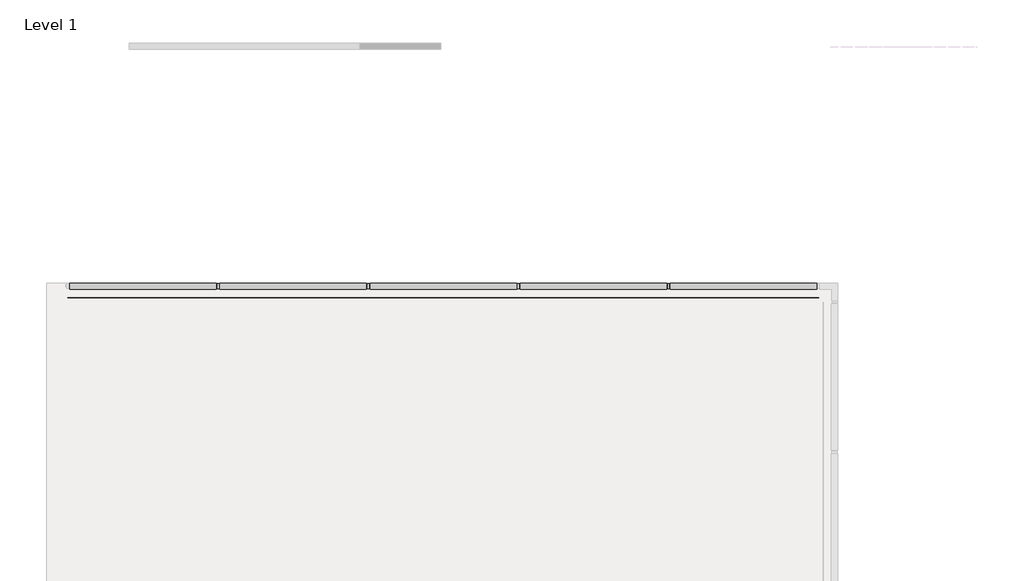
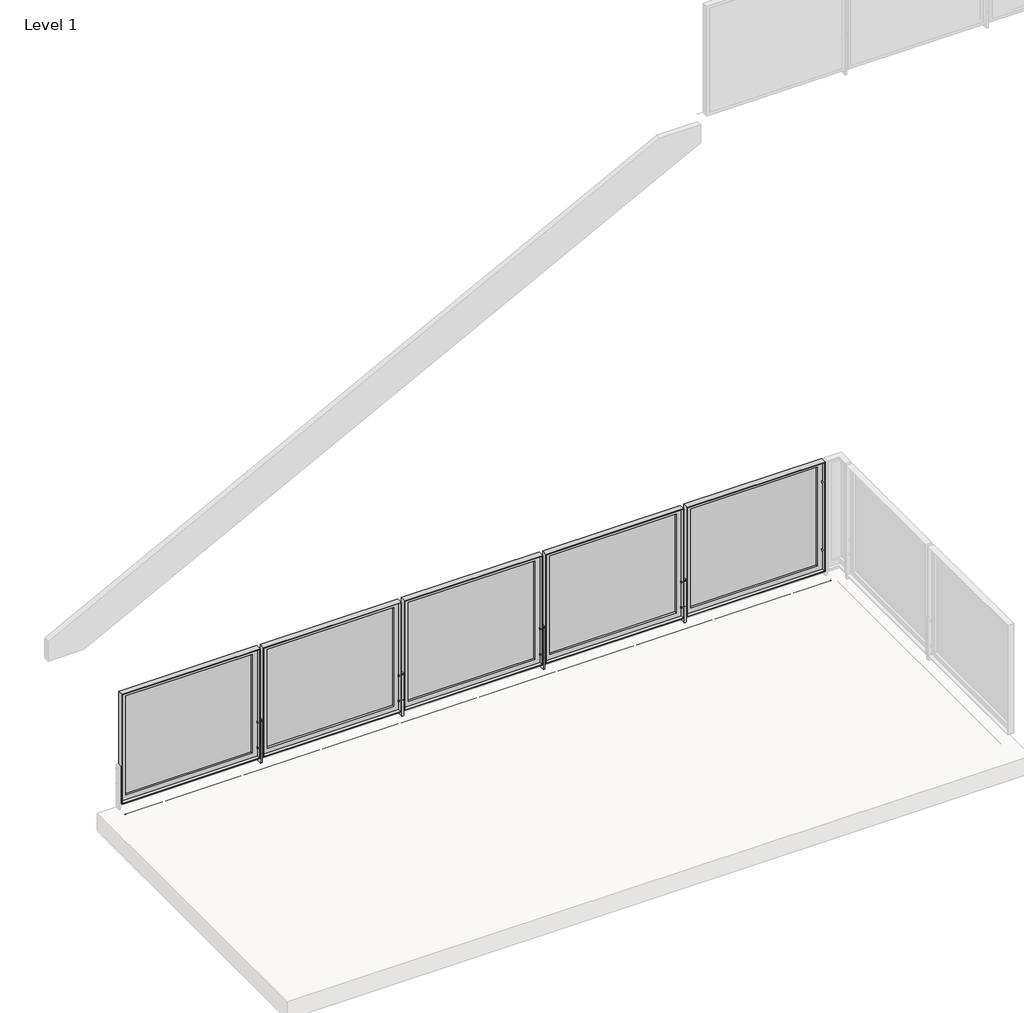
# One storey, part 2 of 37: 1 railing.
"""IFC4 building model written with IfcOpenShell, lengths in millimetres."""

from ifc_helpers import new_model, si_unit, point, frame, frame_2d, origin, origin_with_axes, place, context, project, spatial, polyline, circle_curve, trimmed, segment, composite_curve, outline, extrude, faceted_brep, element, save
from ifc_brep_helpers import plane_surface, cylinder_surface, advanced_brep

model = new_model("IFC4")

# Units and contexts
model_context = context("Model", 3, world=origin())
ifc_project = project(units=[si_unit("LENGTHUNIT", "METRE", prefix="MILLI")], contexts=[model_context])

# Site, building, storey
site = spatial("IfcSite", under=ifc_project)
building = spatial("IfcBuilding", under=site)
storey = spatial("IfcBuildingStorey", under=building, Name="Level 1", Elevation=0.0)

# Railing
placement = place(None, origin())
element("IfcRailing", 1, ObjectType="Metal-Panel-VIVA-FRAME-Slab-Top-Weld-Straight", at=placement, inside=storey, context=model_context, shape_type="SolidModel", body=[
    extrude(outline(composite_curve([segment(trimmed(circle_curve(frame_2d((-33571.9733743, -0.254)), 0.254), [point((-33572.2273743, -0.254))], [point((-33571.7193743, -0.254))], False, "CARTESIAN"), True, "CONTINUOUS"), segment(trimmed(circle_curve(frame_2d((-33571.9733743, -0.254)), 0.254), [point((-33571.7193743, -0.254))], [point((-33572.2273743, -0.254))], False, "CARTESIAN"), True, "CONTINUOUS")], self_intersect=False)), frame((-39464.9234675, 0.0, 0.0), z_axis=(1.0, 0.0, 0.0), x_axis=(0.0, 1.0, 0.0)), (0.0, 0.0, 1.0), 6350.0),
    extrude(outline(composite_curve([segment(trimmed(circle_curve(frame_2d((-33571.9733743, -0.254)), 0.254), [point((-33572.2273743, -0.254))], [point((-33571.7193743, -0.254))], False, "CARTESIAN"), True, "CONTINUOUS"), segment(trimmed(circle_curve(frame_2d((-33571.9733743, -0.254)), 0.254), [point((-33571.7193743, -0.254))], [point((-33572.2273743, -0.254))], False, "CARTESIAN"), True, "CONTINUOUS")], self_intersect=False)), frame((-39464.9234675, 0.0, 0.0), z_axis=(1.0, 0.0, 0.0), x_axis=(0.0, 1.0, 0.0)), (0.0, 0.0, 1.0), 6350.0),
    extrude(outline(polyline([(-34344.0970106, -33449.1629743), (-33155.7499245, -33449.1629743), (-33155.7499245, -33452.1629743), (-34344.0970106, -33452.1629743), (-34344.0970106, -33449.1629743)])), frame((0.0, 0.0, 76.1959569), z_axis=(0.0, 0.0, 1.0), x_axis=(1.0, 0.0, 0.0)), (0.0, 0.0, 1.0), 990.5826861),
    faceted_brep([(-34369.4970106, -33449.1629743, 1092.1786431), (-33130.3499245, -33449.1629743, 1092.1786431), (-33130.3499245, -33449.1629743, 50.7959569), (-34369.4970106, -33449.1629743, 50.7959569), (-34344.0970106, -33449.1629743, 1066.7786431), (-34344.0970106, -33449.1629743, 76.1959569), (-33155.7499245, -33449.1629743, 76.1959569), (-33155.7499245, -33449.1629743, 1066.7786431), (-34344.0970106, -33452.1629743, 76.1959569), (-33155.7499245, -33452.1629743, 76.1959569), (-33155.7499245, -33452.1629743, 1066.7786431), (-34344.0970106, -33452.1629743, 1066.7786431), (-34363.5026106, -33502.9629743, 56.7903569), (-33136.3443245, -33502.9629743, 56.7903569), (-33136.3443245, -33472.1527743, 56.7903569), (-34363.5026106, -33472.1527743, 56.7903569), (-33136.3443245, -33502.9629743, 1086.1842431), (-33136.3443245, -33472.1527743, 1086.1842431), (-34363.5026106, -33472.1527743, 1086.1842431), (-34363.5026106, -33502.9629743, 1086.1842431), (-33130.3499245, -33502.9629743, 50.7959569), (-33130.3499245, -33502.9629743, 1092.1786431), (-34369.4970106, -33502.9629743, 1092.1786431), (-34369.4970106, -33502.9629743, 50.7959569), (-34318.6970106, -33452.1629743, 1041.3786431), (-34318.6970106, -33452.1629743, 101.5959569), (-33181.1499245, -33452.1629743, 101.5959569), (-33181.1499245, -33452.1629743, 1041.3786431), (-33181.1499245, -33472.1527743, 101.5959569), (-34318.6970106, -33472.1527743, 101.5959569), (-34318.6970106, -33472.1527743, 1041.3786431), (-33181.1499245, -33472.1527743, 1041.3786431)], [[[0, 1, 2, 3], [4, 5, 6, 7]], [[5, 8, 9, 6]], [[6, 9, 10, 7]], [[7, 10, 11, 4]], [[4, 11, 8, 5]], [[12, 13, 14, 15]], [[13, 16, 17, 14]], [[15, 18, 19, 12]], [[20, 21, 22, 23], [12, 19, 16, 13]], [[23, 22, 0, 3]], [[23, 3, 2, 20]], [[2, 1, 21, 20]], [[22, 21, 1, 0]], [[11, 10, 9, 8], [24, 25, 26, 27]], [[14, 17, 18, 15], [28, 29, 30, 31]], [[18, 17, 16, 19]], [[27, 31, 30, 24]], [[26, 28, 31, 27]], [[25, 29, 28, 26]], [[24, 30, 29, 25]]]),
    advanced_brep(
    [(-34411.1108675, -33476.0629743, 130.1496), (-34411.1108675, -33476.0629743, 139.7), (-34411.1108675, -33476.0629743, 149.2504), (-34406.3356675, -33476.0629743, 130.1496), (-34406.3356675, -33476.0629743, 149.2504), (-34406.3356675, -33476.0629743, 134.9248), (-34406.3356675, -33476.0629743, 144.4752), (-34363.5112675, -33476.0629743, 134.9248), (-34363.5112675, -33476.0629743, 144.4752), (-34363.5112675, -33476.0629743, 130.1496), (-34363.5112675, -33476.0629743, 149.2504), (-34358.7360675, -33476.0629743, 130.1496), (-34358.7360675, -33476.0629743, 149.2504), (-34358.7360675, -33476.0629743, 139.7)],
    [
        (0, 1),
        (1, 2),
        (2, 0, circle_curve(frame((-34411.1108675, -33476.0629743, 139.7), z_axis=(-1.0, 0.0, 0.0), x_axis=(0.0, 0.0, 1.0)), 9.5504)),
        (0, 2, circle_curve(frame((-34411.1108675, -33476.0629743, 139.7), z_axis=(-1.0, 0.0, 0.0), x_axis=(0.0, 0.0, 1.0)), 9.5504)),
        (3, 0),
        (2, 4),
        (4, 3, circle_curve(frame((-34406.3356675, -33476.0629743, 139.7), z_axis=(-1.0, 0.0, 0.0), x_axis=(0.0, 0.0, 1.0)), 9.5504)),
        (3, 4, circle_curve(frame((-34406.3356675, -33476.0629743, 139.7), z_axis=(-1.0, 0.0, 0.0), x_axis=(0.0, 0.0, 1.0)), 9.5504)),
        (5, 3),
        (4, 6),
        (6, 5, circle_curve(frame((-34406.3356675, -33476.0629743, 139.7), z_axis=(-1.0, 0.0, 0.0), x_axis=(0.0, 0.0, 1.0)), 4.7752)),
        (5, 6, circle_curve(frame((-34406.3356675, -33476.0629743, 139.7), z_axis=(-1.0, 0.0, 0.0), x_axis=(0.0, 0.0, 1.0)), 4.7752)),
        (7, 5),
        (6, 8),
        (8, 7, circle_curve(frame((-34363.5112675, -33476.0629743, 139.7), z_axis=(-1.0, 0.0, 0.0), x_axis=(0.0, 0.0, 1.0)), 4.7752)),
        (7, 8, circle_curve(frame((-34363.5112675, -33476.0629743, 139.7), z_axis=(-1.0, 0.0, 0.0), x_axis=(0.0, 0.0, 1.0)), 4.7752)),
        (9, 7),
        (8, 10),
        (10, 9, circle_curve(frame((-34363.5112675, -33476.0629743, 139.7), z_axis=(-1.0, 0.0, 0.0), x_axis=(0.0, 0.0, 1.0)), 9.5504)),
        (9, 10, circle_curve(frame((-34363.5112675, -33476.0629743, 139.7), z_axis=(-1.0, 0.0, 0.0), x_axis=(0.0, 0.0, 1.0)), 9.5504)),
        (11, 9),
        (10, 12),
        (12, 11, circle_curve(frame((-34358.7360675, -33476.0629743, 139.7), z_axis=(-1.0, 0.0, 0.0), x_axis=(0.0, 0.0, 1.0)), 9.5504)),
        (11, 12, circle_curve(frame((-34358.7360675, -33476.0629743, 139.7), z_axis=(-1.0, 0.0, 0.0), x_axis=(0.0, 0.0, 1.0)), 9.5504)),
        (13, 11),
        (12, 13),
    ],
    [
        plane_surface(frame((-34411.1108675, -33476.0629743, 139.7), z_axis=(-1.0, 0.0, 0.0), x_axis=(0.0, 0.0, 1.0))),
        cylinder_surface(frame((-37802.6912247, -33476.0629743, 139.7), z_axis=(1.0, 0.0, 0.0), x_axis=(0.0, 0.0, 1.0)), 9.5504),
        plane_surface(frame((-34406.3356675, -33476.0629743, 139.7), z_axis=(1.0, 0.0, 0.0), x_axis=(0.0, 0.0, 1.0))),
        cylinder_surface(frame((-37802.6912247, -33476.0629743, 139.7), z_axis=(1.0, 0.0, 0.0), x_axis=(0.0, 0.0, 1.0)), 4.7752),
        plane_surface(frame((-34363.5112675, -33476.0629743, 139.7), z_axis=(-1.0, 0.0, 0.0), x_axis=(0.0, 0.0, 1.0))),
        plane_surface(frame((-34358.7360675, -33476.0629743, 139.7), z_axis=(1.0, 0.0, 0.0), x_axis=(0.0, 0.0, 1.0))),
    ],
    [
        (0, [[1, 2, 3]]),
        (0, [[-2, -1, 4]]),
        (1, [[5, -3, 6, 7]]),
        (1, [[-6, -4, -5, 8]]),
        (2, [[9, -7, 10, 11]]),
        (2, [[-10, -8, -9, 12]]),
        (3, [[13, -11, 14, 15]]),
        (3, [[-14, -12, -13, 16]]),
        (4, [[17, -15, 18, 19]]),
        (4, [[-18, -16, -17, 20]]),
        (1, [[21, -19, 22, 23]]),
        (1, [[-22, -20, -21, 24]]),
        (5, [[25, -23, 26]]),
        (5, [[-26, -24, -25]]),
    ],
),
    advanced_brep(
    [(-34411.1108675, -33476.0629743, 371.4496), (-34411.1108675, -33476.0629743, 381.0), (-34411.1108675, -33476.0629743, 390.5504), (-34406.3356675, -33476.0629743, 371.4496), (-34406.3356675, -33476.0629743, 390.5504), (-34406.3356675, -33476.0629743, 376.2248), (-34406.3356675, -33476.0629743, 385.7752), (-34363.5112675, -33476.0629743, 376.2248), (-34363.5112675, -33476.0629743, 385.7752), (-34363.5112675, -33476.0629743, 371.4496), (-34363.5112675, -33476.0629743, 390.5504), (-34358.7360675, -33476.0629743, 371.4496), (-34358.7360675, -33476.0629743, 390.5504), (-34358.7360675, -33476.0629743, 381.0)],
    [
        (0, 1),
        (1, 2),
        (2, 0, circle_curve(frame((-34411.1108675, -33476.0629743, 381.0), z_axis=(-1.0, 0.0, 0.0), x_axis=(0.0, 0.0, 1.0)), 9.5504)),
        (0, 2, circle_curve(frame((-34411.1108675, -33476.0629743, 381.0), z_axis=(-1.0, 0.0, 0.0), x_axis=(0.0, 0.0, 1.0)), 9.5504)),
        (3, 0),
        (2, 4),
        (4, 3, circle_curve(frame((-34406.3356675, -33476.0629743, 381.0), z_axis=(-1.0, 0.0, 0.0), x_axis=(0.0, 0.0, 1.0)), 9.5504)),
        (3, 4, circle_curve(frame((-34406.3356675, -33476.0629743, 381.0), z_axis=(-1.0, 0.0, 0.0), x_axis=(0.0, 0.0, 1.0)), 9.5504)),
        (5, 3),
        (4, 6),
        (6, 5, circle_curve(frame((-34406.3356675, -33476.0629743, 381.0), z_axis=(-1.0, 0.0, 0.0), x_axis=(0.0, 0.0, 1.0)), 4.7752)),
        (5, 6, circle_curve(frame((-34406.3356675, -33476.0629743, 381.0), z_axis=(-1.0, 0.0, 0.0), x_axis=(0.0, 0.0, 1.0)), 4.7752)),
        (7, 5),
        (6, 8),
        (8, 7, circle_curve(frame((-34363.5112675, -33476.0629743, 381.0), z_axis=(-1.0, 0.0, 0.0), x_axis=(0.0, 0.0, 1.0)), 4.7752)),
        (7, 8, circle_curve(frame((-34363.5112675, -33476.0629743, 381.0), z_axis=(-1.0, 0.0, 0.0), x_axis=(0.0, 0.0, 1.0)), 4.7752)),
        (9, 7),
        (8, 10),
        (10, 9, circle_curve(frame((-34363.5112675, -33476.0629743, 381.0), z_axis=(-1.0, 0.0, 0.0), x_axis=(0.0, 0.0, 1.0)), 9.5504)),
        (9, 10, circle_curve(frame((-34363.5112675, -33476.0629743, 381.0), z_axis=(-1.0, 0.0, 0.0), x_axis=(0.0, 0.0, 1.0)), 9.5504)),
        (11, 9),
        (10, 12),
        (12, 11, circle_curve(frame((-34358.7360675, -33476.0629743, 381.0), z_axis=(-1.0, 0.0, 0.0), x_axis=(0.0, 0.0, 1.0)), 9.5504)),
        (11, 12, circle_curve(frame((-34358.7360675, -33476.0629743, 381.0), z_axis=(-1.0, 0.0, 0.0), x_axis=(0.0, 0.0, 1.0)), 9.5504)),
        (13, 11),
        (12, 13),
    ],
    [
        plane_surface(frame((-34411.1108675, -33476.0629743, 381.0), z_axis=(-1.0, 0.0, 0.0), x_axis=(0.0, 0.0, 1.0))),
        cylinder_surface(frame((-37802.6912247, -33476.0629743, 381.0), z_axis=(1.0, 0.0, 0.0), x_axis=(0.0, 0.0, 1.0)), 9.5504),
        plane_surface(frame((-34406.3356675, -33476.0629743, 381.0), z_axis=(1.0, 0.0, 0.0), x_axis=(0.0, 0.0, 1.0))),
        cylinder_surface(frame((-37802.6912247, -33476.0629743, 381.0), z_axis=(1.0, 0.0, 0.0), x_axis=(0.0, 0.0, 1.0)), 4.7752),
        plane_surface(frame((-34363.5112675, -33476.0629743, 381.0), z_axis=(-1.0, 0.0, 0.0), x_axis=(0.0, 0.0, 1.0))),
        plane_surface(frame((-34358.7360675, -33476.0629743, 381.0), z_axis=(1.0, 0.0, 0.0), x_axis=(0.0, 0.0, 1.0))),
    ],
    [
        (0, [[1, 2, 3]]),
        (0, [[-2, -1, 4]]),
        (1, [[5, -3, 6, 7]]),
        (1, [[-6, -4, -5, 8]]),
        (2, [[9, -7, 10, 11]]),
        (2, [[-10, -8, -9, 12]]),
        (3, [[13, -11, 14, 15]]),
        (3, [[-14, -12, -13, 16]]),
        (4, [[17, -15, 18, 19]]),
        (4, [[-18, -16, -17, 20]]),
        (1, [[21, -19, 22, 23]]),
        (1, [[-22, -20, -21, 24]]),
        (5, [[25, -23, 26]]),
        (5, [[-26, -24, -25]]),
    ],
),
    extrude(outline(polyline([(-34392.8630592, -33498.2879743), (-34392.8630592, -33453.8379743), (-34376.9838759, -33453.8379743), (-34376.9838759, -33498.2879743), (-34392.8630592, -33498.2879743)])), origin_with_axes(), (0.0, 0.0, 1.0), 406.4),
    extrude(outline(polyline([(-35614.0970106, -33449.1629743), (-34425.7499245, -33449.1629743), (-34425.7499245, -33452.1629743), (-35614.0970106, -33452.1629743), (-35614.0970106, -33449.1629743)])), frame((0.0, 0.0, 76.1959569), z_axis=(0.0, 0.0, 1.0), x_axis=(1.0, 0.0, 0.0)), (0.0, 0.0, 1.0), 990.5826861),
    faceted_brep([(-35639.4970106, -33449.1629743, 1092.1786431), (-34400.3499245, -33449.1629743, 1092.1786431), (-34400.3499245, -33449.1629743, 50.7959569), (-35639.4970106, -33449.1629743, 50.7959569), (-35614.0970106, -33449.1629743, 1066.7786431), (-35614.0970106, -33449.1629743, 76.1959569), (-34425.7499245, -33449.1629743, 76.1959569), (-34425.7499245, -33449.1629743, 1066.7786431), (-35614.0970106, -33452.1629743, 76.1959569), (-34425.7499245, -33452.1629743, 76.1959569), (-34425.7499245, -33452.1629743, 1066.7786431), (-35614.0970106, -33452.1629743, 1066.7786431), (-35633.5026106, -33502.9629743, 56.7903569), (-34406.3443245, -33502.9629743, 56.7903569), (-34406.3443245, -33472.1527743, 56.7903569), (-35633.5026106, -33472.1527743, 56.7903569), (-34406.3443245, -33502.9629743, 1086.1842431), (-34406.3443245, -33472.1527743, 1086.1842431), (-35633.5026106, -33472.1527743, 1086.1842431), (-35633.5026106, -33502.9629743, 1086.1842431), (-34400.3499245, -33502.9629743, 50.7959569), (-34400.3499245, -33502.9629743, 1092.1786431), (-35639.4970106, -33502.9629743, 1092.1786431), (-35639.4970106, -33502.9629743, 50.7959569), (-35588.6970106, -33452.1629743, 1041.3786431), (-35588.6970106, -33452.1629743, 101.5959569), (-34451.1499245, -33452.1629743, 101.5959569), (-34451.1499245, -33452.1629743, 1041.3786431), (-34451.1499245, -33472.1527743, 101.5959569), (-35588.6970106, -33472.1527743, 101.5959569), (-35588.6970106, -33472.1527743, 1041.3786431), (-34451.1499245, -33472.1527743, 1041.3786431)], [[[0, 1, 2, 3], [4, 5, 6, 7]], [[5, 8, 9, 6]], [[6, 9, 10, 7]], [[7, 10, 11, 4]], [[4, 11, 8, 5]], [[12, 13, 14, 15]], [[13, 16, 17, 14]], [[15, 18, 19, 12]], [[20, 21, 22, 23], [12, 19, 16, 13]], [[23, 22, 0, 3]], [[23, 3, 2, 20]], [[2, 1, 21, 20]], [[22, 21, 1, 0]], [[11, 10, 9, 8], [24, 25, 26, 27]], [[14, 17, 18, 15], [28, 29, 30, 31]], [[18, 17, 16, 19]], [[27, 31, 30, 24]], [[26, 28, 31, 27]], [[25, 29, 28, 26]], [[24, 30, 29, 25]]]),
    advanced_brep(
    [(-35681.1108675, -33476.0629743, 130.1496), (-35681.1108675, -33476.0629743, 139.7), (-35681.1108675, -33476.0629743, 149.2504), (-35676.3356675, -33476.0629743, 130.1496), (-35676.3356675, -33476.0629743, 149.2504), (-35676.3356675, -33476.0629743, 134.9248), (-35676.3356675, -33476.0629743, 144.4752), (-35633.5112675, -33476.0629743, 134.9248), (-35633.5112675, -33476.0629743, 144.4752), (-35633.5112675, -33476.0629743, 130.1496), (-35633.5112675, -33476.0629743, 149.2504), (-35628.7360675, -33476.0629743, 130.1496), (-35628.7360675, -33476.0629743, 149.2504), (-35628.7360675, -33476.0629743, 139.7)],
    [
        (0, 1),
        (1, 2),
        (2, 0, circle_curve(frame((-35681.1108675, -33476.0629743, 139.7), z_axis=(-1.0, 0.0, 0.0), x_axis=(0.0, 0.0, 1.0)), 9.5504)),
        (0, 2, circle_curve(frame((-35681.1108675, -33476.0629743, 139.7), z_axis=(-1.0, 0.0, 0.0), x_axis=(0.0, 0.0, 1.0)), 9.5504)),
        (3, 0),
        (2, 4),
        (4, 3, circle_curve(frame((-35676.3356675, -33476.0629743, 139.7), z_axis=(-1.0, 0.0, 0.0), x_axis=(0.0, 0.0, 1.0)), 9.5504)),
        (3, 4, circle_curve(frame((-35676.3356675, -33476.0629743, 139.7), z_axis=(-1.0, 0.0, 0.0), x_axis=(0.0, 0.0, 1.0)), 9.5504)),
        (5, 3),
        (4, 6),
        (6, 5, circle_curve(frame((-35676.3356675, -33476.0629743, 139.7), z_axis=(-1.0, 0.0, 0.0), x_axis=(0.0, 0.0, 1.0)), 4.7752)),
        (5, 6, circle_curve(frame((-35676.3356675, -33476.0629743, 139.7), z_axis=(-1.0, 0.0, 0.0), x_axis=(0.0, 0.0, 1.0)), 4.7752)),
        (7, 5),
        (6, 8),
        (8, 7, circle_curve(frame((-35633.5112675, -33476.0629743, 139.7), z_axis=(-1.0, 0.0, 0.0), x_axis=(0.0, 0.0, 1.0)), 4.7752)),
        (7, 8, circle_curve(frame((-35633.5112675, -33476.0629743, 139.7), z_axis=(-1.0, 0.0, 0.0), x_axis=(0.0, 0.0, 1.0)), 4.7752)),
        (9, 7),
        (8, 10),
        (10, 9, circle_curve(frame((-35633.5112675, -33476.0629743, 139.7), z_axis=(-1.0, 0.0, 0.0), x_axis=(0.0, 0.0, 1.0)), 9.5504)),
        (9, 10, circle_curve(frame((-35633.5112675, -33476.0629743, 139.7), z_axis=(-1.0, 0.0, 0.0), x_axis=(0.0, 0.0, 1.0)), 9.5504)),
        (11, 9),
        (10, 12),
        (12, 11, circle_curve(frame((-35628.7360675, -33476.0629743, 139.7), z_axis=(-1.0, 0.0, 0.0), x_axis=(0.0, 0.0, 1.0)), 9.5504)),
        (11, 12, circle_curve(frame((-35628.7360675, -33476.0629743, 139.7), z_axis=(-1.0, 0.0, 0.0), x_axis=(0.0, 0.0, 1.0)), 9.5504)),
        (13, 11),
        (12, 13),
    ],
    [
        plane_surface(frame((-35681.1108675, -33476.0629743, 139.7), z_axis=(-1.0, 0.0, 0.0), x_axis=(0.0, 0.0, 1.0))),
        cylinder_surface(frame((-39072.6912247, -33476.0629743, 139.7), z_axis=(1.0, 0.0, 0.0), x_axis=(0.0, 0.0, 1.0)), 9.5504),
        plane_surface(frame((-35676.3356675, -33476.0629743, 139.7), z_axis=(1.0, 0.0, 0.0), x_axis=(0.0, 0.0, 1.0))),
        cylinder_surface(frame((-39072.6912247, -33476.0629743, 139.7), z_axis=(1.0, 0.0, 0.0), x_axis=(0.0, 0.0, 1.0)), 4.7752),
        plane_surface(frame((-35633.5112675, -33476.0629743, 139.7), z_axis=(-1.0, 0.0, 0.0), x_axis=(0.0, 0.0, 1.0))),
        plane_surface(frame((-35628.7360675, -33476.0629743, 139.7), z_axis=(1.0, 0.0, 0.0), x_axis=(0.0, 0.0, 1.0))),
    ],
    [
        (0, [[1, 2, 3]]),
        (0, [[-2, -1, 4]]),
        (1, [[5, -3, 6, 7]]),
        (1, [[-6, -4, -5, 8]]),
        (2, [[9, -7, 10, 11]]),
        (2, [[-10, -8, -9, 12]]),
        (3, [[13, -11, 14, 15]]),
        (3, [[-14, -12, -13, 16]]),
        (4, [[17, -15, 18, 19]]),
        (4, [[-18, -16, -17, 20]]),
        (1, [[21, -19, 22, 23]]),
        (1, [[-22, -20, -21, 24]]),
        (5, [[25, -23, 26]]),
        (5, [[-26, -24, -25]]),
    ],
),
    advanced_brep(
    [(-35681.1108675, -33476.0629743, 371.4496), (-35681.1108675, -33476.0629743, 381.0), (-35681.1108675, -33476.0629743, 390.5504), (-35676.3356675, -33476.0629743, 371.4496), (-35676.3356675, -33476.0629743, 390.5504), (-35676.3356675, -33476.0629743, 376.2248), (-35676.3356675, -33476.0629743, 385.7752), (-35633.5112675, -33476.0629743, 376.2248), (-35633.5112675, -33476.0629743, 385.7752), (-35633.5112675, -33476.0629743, 371.4496), (-35633.5112675, -33476.0629743, 390.5504), (-35628.7360675, -33476.0629743, 371.4496), (-35628.7360675, -33476.0629743, 390.5504), (-35628.7360675, -33476.0629743, 381.0)],
    [
        (0, 1),
        (1, 2),
        (2, 0, circle_curve(frame((-35681.1108675, -33476.0629743, 381.0), z_axis=(-1.0, 0.0, 0.0), x_axis=(0.0, 0.0, 1.0)), 9.5504)),
        (0, 2, circle_curve(frame((-35681.1108675, -33476.0629743, 381.0), z_axis=(-1.0, 0.0, 0.0), x_axis=(0.0, 0.0, 1.0)), 9.5504)),
        (3, 0),
        (2, 4),
        (4, 3, circle_curve(frame((-35676.3356675, -33476.0629743, 381.0), z_axis=(-1.0, 0.0, 0.0), x_axis=(0.0, 0.0, 1.0)), 9.5504)),
        (3, 4, circle_curve(frame((-35676.3356675, -33476.0629743, 381.0), z_axis=(-1.0, 0.0, 0.0), x_axis=(0.0, 0.0, 1.0)), 9.5504)),
        (5, 3),
        (4, 6),
        (6, 5, circle_curve(frame((-35676.3356675, -33476.0629743, 381.0), z_axis=(-1.0, 0.0, 0.0), x_axis=(0.0, 0.0, 1.0)), 4.7752)),
        (5, 6, circle_curve(frame((-35676.3356675, -33476.0629743, 381.0), z_axis=(-1.0, 0.0, 0.0), x_axis=(0.0, 0.0, 1.0)), 4.7752)),
        (7, 5),
        (6, 8),
        (8, 7, circle_curve(frame((-35633.5112675, -33476.0629743, 381.0), z_axis=(-1.0, 0.0, 0.0), x_axis=(0.0, 0.0, 1.0)), 4.7752)),
        (7, 8, circle_curve(frame((-35633.5112675, -33476.0629743, 381.0), z_axis=(-1.0, 0.0, 0.0), x_axis=(0.0, 0.0, 1.0)), 4.7752)),
        (9, 7),
        (8, 10),
        (10, 9, circle_curve(frame((-35633.5112675, -33476.0629743, 381.0), z_axis=(-1.0, 0.0, 0.0), x_axis=(0.0, 0.0, 1.0)), 9.5504)),
        (9, 10, circle_curve(frame((-35633.5112675, -33476.0629743, 381.0), z_axis=(-1.0, 0.0, 0.0), x_axis=(0.0, 0.0, 1.0)), 9.5504)),
        (11, 9),
        (10, 12),
        (12, 11, circle_curve(frame((-35628.7360675, -33476.0629743, 381.0), z_axis=(-1.0, 0.0, 0.0), x_axis=(0.0, 0.0, 1.0)), 9.5504)),
        (11, 12, circle_curve(frame((-35628.7360675, -33476.0629743, 381.0), z_axis=(-1.0, 0.0, 0.0), x_axis=(0.0, 0.0, 1.0)), 9.5504)),
        (13, 11),
        (12, 13),
    ],
    [
        plane_surface(frame((-35681.1108675, -33476.0629743, 381.0), z_axis=(-1.0, 0.0, 0.0), x_axis=(0.0, 0.0, 1.0))),
        cylinder_surface(frame((-39072.6912247, -33476.0629743, 381.0), z_axis=(1.0, 0.0, 0.0), x_axis=(0.0, 0.0, 1.0)), 9.5504),
        plane_surface(frame((-35676.3356675, -33476.0629743, 381.0), z_axis=(1.0, 0.0, 0.0), x_axis=(0.0, 0.0, 1.0))),
        cylinder_surface(frame((-39072.6912247, -33476.0629743, 381.0), z_axis=(1.0, 0.0, 0.0), x_axis=(0.0, 0.0, 1.0)), 4.7752),
        plane_surface(frame((-35633.5112675, -33476.0629743, 381.0), z_axis=(-1.0, 0.0, 0.0), x_axis=(0.0, 0.0, 1.0))),
        plane_surface(frame((-35628.7360675, -33476.0629743, 381.0), z_axis=(1.0, 0.0, 0.0), x_axis=(0.0, 0.0, 1.0))),
    ],
    [
        (0, [[1, 2, 3]]),
        (0, [[-2, -1, 4]]),
        (1, [[5, -3, 6, 7]]),
        (1, [[-6, -4, -5, 8]]),
        (2, [[9, -7, 10, 11]]),
        (2, [[-10, -8, -9, 12]]),
        (3, [[13, -11, 14, 15]]),
        (3, [[-14, -12, -13, 16]]),
        (4, [[17, -15, 18, 19]]),
        (4, [[-18, -16, -17, 20]]),
        (1, [[21, -19, 22, 23]]),
        (1, [[-22, -20, -21, 24]]),
        (5, [[25, -23, 26]]),
        (5, [[-26, -24, -25]]),
    ],
),
    extrude(outline(polyline([(-35662.8630592, -33498.2879743), (-35662.8630592, -33453.8379743), (-35646.9838759, -33453.8379743), (-35646.9838759, -33498.2879743), (-35662.8630592, -33498.2879743)])), origin_with_axes(), (0.0, 0.0, 1.0), 406.4),
    extrude(outline(polyline([(-36884.0970106, -33449.1629743), (-35695.7499245, -33449.1629743), (-35695.7499245, -33452.1629743), (-36884.0970106, -33452.1629743), (-36884.0970106, -33449.1629743)])), frame((0.0, 0.0, 76.1959569), z_axis=(0.0, 0.0, 1.0), x_axis=(1.0, 0.0, 0.0)), (0.0, 0.0, 1.0), 990.5826861),
    faceted_brep([(-36909.4970106, -33449.1629743, 1092.1786431), (-35670.3499245, -33449.1629743, 1092.1786431), (-35670.3499245, -33449.1629743, 50.7959569), (-36909.4970106, -33449.1629743, 50.7959569), (-36884.0970106, -33449.1629743, 1066.7786431), (-36884.0970106, -33449.1629743, 76.1959569), (-35695.7499245, -33449.1629743, 76.1959569), (-35695.7499245, -33449.1629743, 1066.7786431), (-36884.0970106, -33452.1629743, 76.1959569), (-35695.7499245, -33452.1629743, 76.1959569), (-35695.7499245, -33452.1629743, 1066.7786431), (-36884.0970106, -33452.1629743, 1066.7786431), (-36903.5026106, -33502.9629743, 56.7903569), (-35676.3443245, -33502.9629743, 56.7903569), (-35676.3443245, -33472.1527743, 56.7903569), (-36903.5026106, -33472.1527743, 56.7903569), (-35676.3443245, -33502.9629743, 1086.1842431), (-35676.3443245, -33472.1527743, 1086.1842431), (-36903.5026106, -33472.1527743, 1086.1842431), (-36903.5026106, -33502.9629743, 1086.1842431), (-35670.3499245, -33502.9629743, 50.7959569), (-35670.3499245, -33502.9629743, 1092.1786431), (-36909.4970106, -33502.9629743, 1092.1786431), (-36909.4970106, -33502.9629743, 50.7959569), (-36858.6970106, -33452.1629743, 1041.3786431), (-36858.6970106, -33452.1629743, 101.5959569), (-35721.1499245, -33452.1629743, 101.5959569), (-35721.1499245, -33452.1629743, 1041.3786431), (-35721.1499245, -33472.1527743, 101.5959569), (-36858.6970106, -33472.1527743, 101.5959569), (-36858.6970106, -33472.1527743, 1041.3786431), (-35721.1499245, -33472.1527743, 1041.3786431)], [[[0, 1, 2, 3], [4, 5, 6, 7]], [[5, 8, 9, 6]], [[6, 9, 10, 7]], [[7, 10, 11, 4]], [[4, 11, 8, 5]], [[12, 13, 14, 15]], [[13, 16, 17, 14]], [[15, 18, 19, 12]], [[20, 21, 22, 23], [12, 19, 16, 13]], [[23, 22, 0, 3]], [[23, 3, 2, 20]], [[2, 1, 21, 20]], [[22, 21, 1, 0]], [[11, 10, 9, 8], [24, 25, 26, 27]], [[14, 17, 18, 15], [28, 29, 30, 31]], [[18, 17, 16, 19]], [[27, 31, 30, 24]], [[26, 28, 31, 27]], [[25, 29, 28, 26]], [[24, 30, 29, 25]]]),
    advanced_brep(
    [(-36951.1108675, -33476.0629743, 130.1496), (-36951.1108675, -33476.0629743, 139.7), (-36951.1108675, -33476.0629743, 149.2504), (-36946.3356675, -33476.0629743, 130.1496), (-36946.3356675, -33476.0629743, 149.2504), (-36946.3356675, -33476.0629743, 134.9248), (-36946.3356675, -33476.0629743, 144.4752), (-36903.5112675, -33476.0629743, 134.9248), (-36903.5112675, -33476.0629743, 144.4752), (-36903.5112675, -33476.0629743, 130.1496), (-36903.5112675, -33476.0629743, 149.2504), (-36898.7360675, -33476.0629743, 130.1496), (-36898.7360675, -33476.0629743, 149.2504), (-36898.7360675, -33476.0629743, 139.7)],
    [
        (0, 1),
        (1, 2),
        (2, 0, circle_curve(frame((-36951.1108675, -33476.0629743, 139.7), z_axis=(-1.0, 0.0, 0.0), x_axis=(0.0, 0.0, 1.0)), 9.5504)),
        (0, 2, circle_curve(frame((-36951.1108675, -33476.0629743, 139.7), z_axis=(-1.0, 0.0, 0.0), x_axis=(0.0, 0.0, 1.0)), 9.5504)),
        (3, 0),
        (2, 4),
        (4, 3, circle_curve(frame((-36946.3356675, -33476.0629743, 139.7), z_axis=(-1.0, 0.0, 0.0), x_axis=(0.0, 0.0, 1.0)), 9.5504)),
        (3, 4, circle_curve(frame((-36946.3356675, -33476.0629743, 139.7), z_axis=(-1.0, 0.0, 0.0), x_axis=(0.0, 0.0, 1.0)), 9.5504)),
        (5, 3),
        (4, 6),
        (6, 5, circle_curve(frame((-36946.3356675, -33476.0629743, 139.7), z_axis=(-1.0, 0.0, 0.0), x_axis=(0.0, 0.0, 1.0)), 4.7752)),
        (5, 6, circle_curve(frame((-36946.3356675, -33476.0629743, 139.7), z_axis=(-1.0, 0.0, 0.0), x_axis=(0.0, 0.0, 1.0)), 4.7752)),
        (7, 5),
        (6, 8),
        (8, 7, circle_curve(frame((-36903.5112675, -33476.0629743, 139.7), z_axis=(-1.0, 0.0, 0.0), x_axis=(0.0, 0.0, 1.0)), 4.7752)),
        (7, 8, circle_curve(frame((-36903.5112675, -33476.0629743, 139.7), z_axis=(-1.0, 0.0, 0.0), x_axis=(0.0, 0.0, 1.0)), 4.7752)),
        (9, 7),
        (8, 10),
        (10, 9, circle_curve(frame((-36903.5112675, -33476.0629743, 139.7), z_axis=(-1.0, 0.0, 0.0), x_axis=(0.0, 0.0, 1.0)), 9.5504)),
        (9, 10, circle_curve(frame((-36903.5112675, -33476.0629743, 139.7), z_axis=(-1.0, 0.0, 0.0), x_axis=(0.0, 0.0, 1.0)), 9.5504)),
        (11, 9),
        (10, 12),
        (12, 11, circle_curve(frame((-36898.7360675, -33476.0629743, 139.7), z_axis=(-1.0, 0.0, 0.0), x_axis=(0.0, 0.0, 1.0)), 9.5504)),
        (11, 12, circle_curve(frame((-36898.7360675, -33476.0629743, 139.7), z_axis=(-1.0, 0.0, 0.0), x_axis=(0.0, 0.0, 1.0)), 9.5504)),
        (13, 11),
        (12, 13),
    ],
    [
        plane_surface(frame((-36951.1108675, -33476.0629743, 139.7), z_axis=(-1.0, 0.0, 0.0), x_axis=(0.0, 0.0, 1.0))),
        cylinder_surface(frame((-40342.6912247, -33476.0629743, 139.7), z_axis=(1.0, 0.0, 0.0), x_axis=(0.0, 0.0, 1.0)), 9.5504),
        plane_surface(frame((-36946.3356675, -33476.0629743, 139.7), z_axis=(1.0, 0.0, 0.0), x_axis=(0.0, 0.0, 1.0))),
        cylinder_surface(frame((-40342.6912247, -33476.0629743, 139.7), z_axis=(1.0, 0.0, 0.0), x_axis=(0.0, 0.0, 1.0)), 4.7752),
        plane_surface(frame((-36903.5112675, -33476.0629743, 139.7), z_axis=(-1.0, 0.0, 0.0), x_axis=(0.0, 0.0, 1.0))),
        plane_surface(frame((-36898.7360675, -33476.0629743, 139.7), z_axis=(1.0, 0.0, 0.0), x_axis=(0.0, 0.0, 1.0))),
    ],
    [
        (0, [[1, 2, 3]]),
        (0, [[-2, -1, 4]]),
        (1, [[5, -3, 6, 7]]),
        (1, [[-6, -4, -5, 8]]),
        (2, [[9, -7, 10, 11]]),
        (2, [[-10, -8, -9, 12]]),
        (3, [[13, -11, 14, 15]]),
        (3, [[-14, -12, -13, 16]]),
        (4, [[17, -15, 18, 19]]),
        (4, [[-18, -16, -17, 20]]),
        (1, [[21, -19, 22, 23]]),
        (1, [[-22, -20, -21, 24]]),
        (5, [[25, -23, 26]]),
        (5, [[-26, -24, -25]]),
    ],
),
    advanced_brep(
    [(-36951.1108675, -33476.0629743, 371.4496), (-36951.1108675, -33476.0629743, 381.0), (-36951.1108675, -33476.0629743, 390.5504), (-36946.3356675, -33476.0629743, 371.4496), (-36946.3356675, -33476.0629743, 390.5504), (-36946.3356675, -33476.0629743, 376.2248), (-36946.3356675, -33476.0629743, 385.7752), (-36903.5112675, -33476.0629743, 376.2248), (-36903.5112675, -33476.0629743, 385.7752), (-36903.5112675, -33476.0629743, 371.4496), (-36903.5112675, -33476.0629743, 390.5504), (-36898.7360675, -33476.0629743, 371.4496), (-36898.7360675, -33476.0629743, 390.5504), (-36898.7360675, -33476.0629743, 381.0)],
    [
        (0, 1),
        (1, 2),
        (2, 0, circle_curve(frame((-36951.1108675, -33476.0629743, 381.0), z_axis=(-1.0, 0.0, 0.0), x_axis=(0.0, 0.0, 1.0)), 9.5504)),
        (0, 2, circle_curve(frame((-36951.1108675, -33476.0629743, 381.0), z_axis=(-1.0, 0.0, 0.0), x_axis=(0.0, 0.0, 1.0)), 9.5504)),
        (3, 0),
        (2, 4),
        (4, 3, circle_curve(frame((-36946.3356675, -33476.0629743, 381.0), z_axis=(-1.0, 0.0, 0.0), x_axis=(0.0, 0.0, 1.0)), 9.5504)),
        (3, 4, circle_curve(frame((-36946.3356675, -33476.0629743, 381.0), z_axis=(-1.0, 0.0, 0.0), x_axis=(0.0, 0.0, 1.0)), 9.5504)),
        (5, 3),
        (4, 6),
        (6, 5, circle_curve(frame((-36946.3356675, -33476.0629743, 381.0), z_axis=(-1.0, 0.0, 0.0), x_axis=(0.0, 0.0, 1.0)), 4.7752)),
        (5, 6, circle_curve(frame((-36946.3356675, -33476.0629743, 381.0), z_axis=(-1.0, 0.0, 0.0), x_axis=(0.0, 0.0, 1.0)), 4.7752)),
        (7, 5),
        (6, 8),
        (8, 7, circle_curve(frame((-36903.5112675, -33476.0629743, 381.0), z_axis=(-1.0, 0.0, 0.0), x_axis=(0.0, 0.0, 1.0)), 4.7752)),
        (7, 8, circle_curve(frame((-36903.5112675, -33476.0629743, 381.0), z_axis=(-1.0, 0.0, 0.0), x_axis=(0.0, 0.0, 1.0)), 4.7752)),
        (9, 7),
        (8, 10),
        (10, 9, circle_curve(frame((-36903.5112675, -33476.0629743, 381.0), z_axis=(-1.0, 0.0, 0.0), x_axis=(0.0, 0.0, 1.0)), 9.5504)),
        (9, 10, circle_curve(frame((-36903.5112675, -33476.0629743, 381.0), z_axis=(-1.0, 0.0, 0.0), x_axis=(0.0, 0.0, 1.0)), 9.5504)),
        (11, 9),
        (10, 12),
        (12, 11, circle_curve(frame((-36898.7360675, -33476.0629743, 381.0), z_axis=(-1.0, 0.0, 0.0), x_axis=(0.0, 0.0, 1.0)), 9.5504)),
        (11, 12, circle_curve(frame((-36898.7360675, -33476.0629743, 381.0), z_axis=(-1.0, 0.0, 0.0), x_axis=(0.0, 0.0, 1.0)), 9.5504)),
        (13, 11),
        (12, 13),
    ],
    [
        plane_surface(frame((-36951.1108675, -33476.0629743, 381.0), z_axis=(-1.0, 0.0, 0.0), x_axis=(0.0, 0.0, 1.0))),
        cylinder_surface(frame((-40342.6912247, -33476.0629743, 381.0), z_axis=(1.0, 0.0, 0.0), x_axis=(0.0, 0.0, 1.0)), 9.5504),
        plane_surface(frame((-36946.3356675, -33476.0629743, 381.0), z_axis=(1.0, 0.0, 0.0), x_axis=(0.0, 0.0, 1.0))),
        cylinder_surface(frame((-40342.6912247, -33476.0629743, 381.0), z_axis=(1.0, 0.0, 0.0), x_axis=(0.0, 0.0, 1.0)), 4.7752),
        plane_surface(frame((-36903.5112675, -33476.0629743, 381.0), z_axis=(-1.0, 0.0, 0.0), x_axis=(0.0, 0.0, 1.0))),
        plane_surface(frame((-36898.7360675, -33476.0629743, 381.0), z_axis=(1.0, 0.0, 0.0), x_axis=(0.0, 0.0, 1.0))),
    ],
    [
        (0, [[1, 2, 3]]),
        (0, [[-2, -1, 4]]),
        (1, [[5, -3, 6, 7]]),
        (1, [[-6, -4, -5, 8]]),
        (2, [[9, -7, 10, 11]]),
        (2, [[-10, -8, -9, 12]]),
        (3, [[13, -11, 14, 15]]),
        (3, [[-14, -12, -13, 16]]),
        (4, [[17, -15, 18, 19]]),
        (4, [[-18, -16, -17, 20]]),
        (1, [[21, -19, 22, 23]]),
        (1, [[-22, -20, -21, 24]]),
        (5, [[25, -23, 26]]),
        (5, [[-26, -24, -25]]),
    ],
),
    extrude(outline(polyline([(-36932.8630592, -33498.2879743), (-36932.8630592, -33453.8379743), (-36916.9838759, -33453.8379743), (-36916.9838759, -33498.2879743), (-36932.8630592, -33498.2879743)])), origin_with_axes(), (0.0, 0.0, 1.0), 406.4),
    extrude(outline(polyline([(-38154.0970106, -33449.1629743), (-36965.7499245, -33449.1629743), (-36965.7499245, -33452.1629743), (-38154.0970106, -33452.1629743), (-38154.0970106, -33449.1629743)])), frame((0.0, 0.0, 76.1959569), z_axis=(0.0, 0.0, 1.0), x_axis=(1.0, 0.0, 0.0)), (0.0, 0.0, 1.0), 990.5826861),
    faceted_brep([(-38179.4970106, -33449.1629743, 1092.1786431), (-36940.3499245, -33449.1629743, 1092.1786431), (-36940.3499245, -33449.1629743, 50.7959569), (-38179.4970106, -33449.1629743, 50.7959569), (-38154.0970106, -33449.1629743, 1066.7786431), (-38154.0970106, -33449.1629743, 76.1959569), (-36965.7499245, -33449.1629743, 76.1959569), (-36965.7499245, -33449.1629743, 1066.7786431), (-38154.0970106, -33452.1629743, 76.1959569), (-36965.7499245, -33452.1629743, 76.1959569), (-36965.7499245, -33452.1629743, 1066.7786431), (-38154.0970106, -33452.1629743, 1066.7786431), (-38173.5026106, -33502.9629743, 56.7903569), (-36946.3443245, -33502.9629743, 56.7903569), (-36946.3443245, -33472.1527743, 56.7903569), (-38173.5026106, -33472.1527743, 56.7903569), (-36946.3443245, -33502.9629743, 1086.1842431), (-36946.3443245, -33472.1527743, 1086.1842431), (-38173.5026106, -33472.1527743, 1086.1842431), (-38173.5026106, -33502.9629743, 1086.1842431), (-36940.3499245, -33502.9629743, 50.7959569), (-36940.3499245, -33502.9629743, 1092.1786431), (-38179.4970106, -33502.9629743, 1092.1786431), (-38179.4970106, -33502.9629743, 50.7959569), (-38128.6970106, -33452.1629743, 1041.3786431), (-38128.6970106, -33452.1629743, 101.5959569), (-36991.1499245, -33452.1629743, 101.5959569), (-36991.1499245, -33452.1629743, 1041.3786431), (-36991.1499245, -33472.1527743, 101.5959569), (-38128.6970106, -33472.1527743, 101.5959569), (-38128.6970106, -33472.1527743, 1041.3786431), (-36991.1499245, -33472.1527743, 1041.3786431)], [[[0, 1, 2, 3], [4, 5, 6, 7]], [[5, 8, 9, 6]], [[6, 9, 10, 7]], [[7, 10, 11, 4]], [[4, 11, 8, 5]], [[12, 13, 14, 15]], [[13, 16, 17, 14]], [[15, 18, 19, 12]], [[20, 21, 22, 23], [12, 19, 16, 13]], [[23, 22, 0, 3]], [[23, 3, 2, 20]], [[2, 1, 21, 20]], [[22, 21, 1, 0]], [[11, 10, 9, 8], [24, 25, 26, 27]], [[14, 17, 18, 15], [28, 29, 30, 31]], [[18, 17, 16, 19]], [[27, 31, 30, 24]], [[26, 28, 31, 27]], [[25, 29, 28, 26]], [[24, 30, 29, 25]]]),
    advanced_brep(
    [(-38221.1108675, -33476.0629743, 130.1496), (-38221.1108675, -33476.0629743, 139.7), (-38221.1108675, -33476.0629743, 149.2504), (-38216.3356675, -33476.0629743, 130.1496), (-38216.3356675, -33476.0629743, 149.2504), (-38216.3356675, -33476.0629743, 134.9248), (-38216.3356675, -33476.0629743, 144.4752), (-38173.5112675, -33476.0629743, 134.9248), (-38173.5112675, -33476.0629743, 144.4752), (-38173.5112675, -33476.0629743, 130.1496), (-38173.5112675, -33476.0629743, 149.2504), (-38168.7360675, -33476.0629743, 130.1496), (-38168.7360675, -33476.0629743, 149.2504), (-38168.7360675, -33476.0629743, 139.7)],
    [
        (0, 1),
        (1, 2),
        (2, 0, circle_curve(frame((-38221.1108675, -33476.0629743, 139.7), z_axis=(-1.0, 0.0, 0.0), x_axis=(0.0, 0.0, 1.0)), 9.5504)),
        (0, 2, circle_curve(frame((-38221.1108675, -33476.0629743, 139.7), z_axis=(-1.0, 0.0, 0.0), x_axis=(0.0, 0.0, 1.0)), 9.5504)),
        (3, 0),
        (2, 4),
        (4, 3, circle_curve(frame((-38216.3356675, -33476.0629743, 139.7), z_axis=(-1.0, 0.0, 0.0), x_axis=(0.0, 0.0, 1.0)), 9.5504)),
        (3, 4, circle_curve(frame((-38216.3356675, -33476.0629743, 139.7), z_axis=(-1.0, 0.0, 0.0), x_axis=(0.0, 0.0, 1.0)), 9.5504)),
        (5, 3),
        (4, 6),
        (6, 5, circle_curve(frame((-38216.3356675, -33476.0629743, 139.7), z_axis=(-1.0, 0.0, 0.0), x_axis=(0.0, 0.0, 1.0)), 4.7752)),
        (5, 6, circle_curve(frame((-38216.3356675, -33476.0629743, 139.7), z_axis=(-1.0, 0.0, 0.0), x_axis=(0.0, 0.0, 1.0)), 4.7752)),
        (7, 5),
        (6, 8),
        (8, 7, circle_curve(frame((-38173.5112675, -33476.0629743, 139.7), z_axis=(-1.0, 0.0, 0.0), x_axis=(0.0, 0.0, 1.0)), 4.7752)),
        (7, 8, circle_curve(frame((-38173.5112675, -33476.0629743, 139.7), z_axis=(-1.0, 0.0, 0.0), x_axis=(0.0, 0.0, 1.0)), 4.7752)),
        (9, 7),
        (8, 10),
        (10, 9, circle_curve(frame((-38173.5112675, -33476.0629743, 139.7), z_axis=(-1.0, 0.0, 0.0), x_axis=(0.0, 0.0, 1.0)), 9.5504)),
        (9, 10, circle_curve(frame((-38173.5112675, -33476.0629743, 139.7), z_axis=(-1.0, 0.0, 0.0), x_axis=(0.0, 0.0, 1.0)), 9.5504)),
        (11, 9),
        (10, 12),
        (12, 11, circle_curve(frame((-38168.7360675, -33476.0629743, 139.7), z_axis=(-1.0, 0.0, 0.0), x_axis=(0.0, 0.0, 1.0)), 9.5504)),
        (11, 12, circle_curve(frame((-38168.7360675, -33476.0629743, 139.7), z_axis=(-1.0, 0.0, 0.0), x_axis=(0.0, 0.0, 1.0)), 9.5504)),
        (13, 11),
        (12, 13),
    ],
    [
        plane_surface(frame((-38221.1108675, -33476.0629743, 139.7), z_axis=(-1.0, 0.0, 0.0), x_axis=(0.0, 0.0, 1.0))),
        cylinder_surface(frame((-41612.6912247, -33476.0629743, 139.7), z_axis=(1.0, 0.0, 0.0), x_axis=(0.0, 0.0, 1.0)), 9.5504),
        plane_surface(frame((-38216.3356675, -33476.0629743, 139.7), z_axis=(1.0, 0.0, 0.0), x_axis=(0.0, 0.0, 1.0))),
        cylinder_surface(frame((-41612.6912247, -33476.0629743, 139.7), z_axis=(1.0, 0.0, 0.0), x_axis=(0.0, 0.0, 1.0)), 4.7752),
        plane_surface(frame((-38173.5112675, -33476.0629743, 139.7), z_axis=(-1.0, 0.0, 0.0), x_axis=(0.0, 0.0, 1.0))),
        plane_surface(frame((-38168.7360675, -33476.0629743, 139.7), z_axis=(1.0, 0.0, 0.0), x_axis=(0.0, 0.0, 1.0))),
    ],
    [
        (0, [[1, 2, 3]]),
        (0, [[-2, -1, 4]]),
        (1, [[5, -3, 6, 7]]),
        (1, [[-6, -4, -5, 8]]),
        (2, [[9, -7, 10, 11]]),
        (2, [[-10, -8, -9, 12]]),
        (3, [[13, -11, 14, 15]]),
        (3, [[-14, -12, -13, 16]]),
        (4, [[17, -15, 18, 19]]),
        (4, [[-18, -16, -17, 20]]),
        (1, [[21, -19, 22, 23]]),
        (1, [[-22, -20, -21, 24]]),
        (5, [[25, -23, 26]]),
        (5, [[-26, -24, -25]]),
    ],
),
    advanced_brep(
    [(-38221.1108675, -33476.0629743, 371.4496), (-38221.1108675, -33476.0629743, 381.0), (-38221.1108675, -33476.0629743, 390.5504), (-38216.3356675, -33476.0629743, 371.4496), (-38216.3356675, -33476.0629743, 390.5504), (-38216.3356675, -33476.0629743, 376.2248), (-38216.3356675, -33476.0629743, 385.7752), (-38173.5112675, -33476.0629743, 376.2248), (-38173.5112675, -33476.0629743, 385.7752), (-38173.5112675, -33476.0629743, 371.4496), (-38173.5112675, -33476.0629743, 390.5504), (-38168.7360675, -33476.0629743, 371.4496), (-38168.7360675, -33476.0629743, 390.5504), (-38168.7360675, -33476.0629743, 381.0)],
    [
        (0, 1),
        (1, 2),
        (2, 0, circle_curve(frame((-38221.1108675, -33476.0629743, 381.0), z_axis=(-1.0, 0.0, 0.0), x_axis=(0.0, 0.0, 1.0)), 9.5504)),
        (0, 2, circle_curve(frame((-38221.1108675, -33476.0629743, 381.0), z_axis=(-1.0, 0.0, 0.0), x_axis=(0.0, 0.0, 1.0)), 9.5504)),
        (3, 0),
        (2, 4),
        (4, 3, circle_curve(frame((-38216.3356675, -33476.0629743, 381.0), z_axis=(-1.0, 0.0, 0.0), x_axis=(0.0, 0.0, 1.0)), 9.5504)),
        (3, 4, circle_curve(frame((-38216.3356675, -33476.0629743, 381.0), z_axis=(-1.0, 0.0, 0.0), x_axis=(0.0, 0.0, 1.0)), 9.5504)),
        (5, 3),
        (4, 6),
        (6, 5, circle_curve(frame((-38216.3356675, -33476.0629743, 381.0), z_axis=(-1.0, 0.0, 0.0), x_axis=(0.0, 0.0, 1.0)), 4.7752)),
        (5, 6, circle_curve(frame((-38216.3356675, -33476.0629743, 381.0), z_axis=(-1.0, 0.0, 0.0), x_axis=(0.0, 0.0, 1.0)), 4.7752)),
        (7, 5),
        (6, 8),
        (8, 7, circle_curve(frame((-38173.5112675, -33476.0629743, 381.0), z_axis=(-1.0, 0.0, 0.0), x_axis=(0.0, 0.0, 1.0)), 4.7752)),
        (7, 8, circle_curve(frame((-38173.5112675, -33476.0629743, 381.0), z_axis=(-1.0, 0.0, 0.0), x_axis=(0.0, 0.0, 1.0)), 4.7752)),
        (9, 7),
        (8, 10),
        (10, 9, circle_curve(frame((-38173.5112675, -33476.0629743, 381.0), z_axis=(-1.0, 0.0, 0.0), x_axis=(0.0, 0.0, 1.0)), 9.5504)),
        (9, 10, circle_curve(frame((-38173.5112675, -33476.0629743, 381.0), z_axis=(-1.0, 0.0, 0.0), x_axis=(0.0, 0.0, 1.0)), 9.5504)),
        (11, 9),
        (10, 12),
        (12, 11, circle_curve(frame((-38168.7360675, -33476.0629743, 381.0), z_axis=(-1.0, 0.0, 0.0), x_axis=(0.0, 0.0, 1.0)), 9.5504)),
        (11, 12, circle_curve(frame((-38168.7360675, -33476.0629743, 381.0), z_axis=(-1.0, 0.0, 0.0), x_axis=(0.0, 0.0, 1.0)), 9.5504)),
        (13, 11),
        (12, 13),
    ],
    [
        plane_surface(frame((-38221.1108675, -33476.0629743, 381.0), z_axis=(-1.0, 0.0, 0.0), x_axis=(0.0, 0.0, 1.0))),
        cylinder_surface(frame((-41612.6912247, -33476.0629743, 381.0), z_axis=(1.0, 0.0, 0.0), x_axis=(0.0, 0.0, 1.0)), 9.5504),
        plane_surface(frame((-38216.3356675, -33476.0629743, 381.0), z_axis=(1.0, 0.0, 0.0), x_axis=(0.0, 0.0, 1.0))),
        cylinder_surface(frame((-41612.6912247, -33476.0629743, 381.0), z_axis=(1.0, 0.0, 0.0), x_axis=(0.0, 0.0, 1.0)), 4.7752),
        plane_surface(frame((-38173.5112675, -33476.0629743, 381.0), z_axis=(-1.0, 0.0, 0.0), x_axis=(0.0, 0.0, 1.0))),
        plane_surface(frame((-38168.7360675, -33476.0629743, 381.0), z_axis=(1.0, 0.0, 0.0), x_axis=(0.0, 0.0, 1.0))),
    ],
    [
        (0, [[1, 2, 3]]),
        (0, [[-2, -1, 4]]),
        (1, [[5, -3, 6, 7]]),
        (1, [[-6, -4, -5, 8]]),
        (2, [[9, -7, 10, 11]]),
        (2, [[-10, -8, -9, 12]]),
        (3, [[13, -11, 14, 15]]),
        (3, [[-14, -12, -13, 16]]),
        (4, [[17, -15, 18, 19]]),
        (4, [[-18, -16, -17, 20]]),
        (1, [[21, -19, 22, 23]]),
        (1, [[-22, -20, -21, 24]]),
        (5, [[25, -23, 26]]),
        (5, [[-26, -24, -25]]),
    ],
),
    extrude(outline(polyline([(-38202.8630592, -33498.2879743), (-38202.8630592, -33453.8379743), (-38186.9838759, -33453.8379743), (-38186.9838759, -33498.2879743), (-38202.8630592, -33498.2879743)])), origin_with_axes(), (0.0, 0.0, 1.0), 406.4),
    extrude(outline(polyline([(-39424.0970106, -33449.1629743), (-38235.7499245, -33449.1629743), (-38235.7499245, -33452.1629743), (-39424.0970106, -33452.1629743), (-39424.0970106, -33449.1629743)])), frame((0.0, 0.0, 76.1959569), z_axis=(0.0, 0.0, 1.0), x_axis=(1.0, 0.0, 0.0)), (0.0, 0.0, 1.0), 990.5826861),
    faceted_brep([(-39449.4970106, -33449.1629743, 1092.1786431), (-38210.3499245, -33449.1629743, 1092.1786431), (-38210.3499245, -33449.1629743, 50.7959569), (-39449.4970106, -33449.1629743, 50.7959569), (-39424.0970106, -33449.1629743, 1066.7786431), (-39424.0970106, -33449.1629743, 76.1959569), (-38235.7499245, -33449.1629743, 76.1959569), (-38235.7499245, -33449.1629743, 1066.7786431), (-39424.0970106, -33452.1629743, 76.1959569), (-38235.7499245, -33452.1629743, 76.1959569), (-38235.7499245, -33452.1629743, 1066.7786431), (-39424.0970106, -33452.1629743, 1066.7786431), (-39443.5026106, -33502.9629743, 56.7903569), (-38216.3443245, -33502.9629743, 56.7903569), (-38216.3443245, -33472.1527743, 56.7903569), (-39443.5026106, -33472.1527743, 56.7903569), (-38216.3443245, -33502.9629743, 1086.1842431), (-38216.3443245, -33472.1527743, 1086.1842431), (-39443.5026106, -33472.1527743, 1086.1842431), (-39443.5026106, -33502.9629743, 1086.1842431), (-38210.3499245, -33502.9629743, 50.7959569), (-38210.3499245, -33502.9629743, 1092.1786431), (-39449.4970106, -33502.9629743, 1092.1786431), (-39449.4970106, -33502.9629743, 50.7959569), (-39398.6970106, -33452.1629743, 1041.3786431), (-39398.6970106, -33452.1629743, 101.5959569), (-38261.1499245, -33452.1629743, 101.5959569), (-38261.1499245, -33452.1629743, 1041.3786431), (-38261.1499245, -33472.1527743, 101.5959569), (-39398.6970106, -33472.1527743, 101.5959569), (-39398.6970106, -33472.1527743, 1041.3786431), (-38261.1499245, -33472.1527743, 1041.3786431)], [[[0, 1, 2, 3], [4, 5, 6, 7]], [[5, 8, 9, 6]], [[6, 9, 10, 7]], [[7, 10, 11, 4]], [[4, 11, 8, 5]], [[12, 13, 14, 15]], [[13, 16, 17, 14]], [[15, 18, 19, 12]], [[20, 21, 22, 23], [12, 19, 16, 13]], [[23, 22, 0, 3]], [[23, 3, 2, 20]], [[2, 1, 21, 20]], [[22, 21, 1, 0]], [[11, 10, 9, 8], [24, 25, 26, 27]], [[14, 17, 18, 15], [28, 29, 30, 31]], [[18, 17, 16, 19]], [[27, 31, 30, 24]], [[26, 28, 31, 27]], [[25, 29, 28, 26]], [[24, 30, 29, 25]]]),
])

save(model, "model.ifc")
